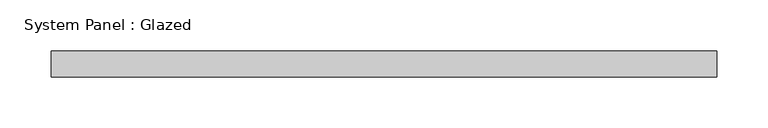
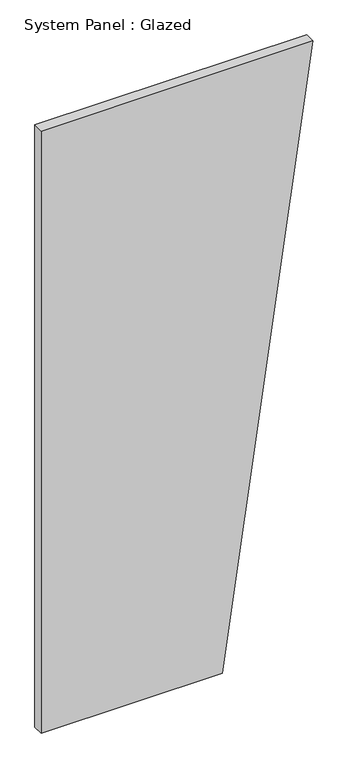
"""IFC4 building model written with IfcOpenShell, lengths in millimetres: plate geometry, System Panel : Glazed."""

from ifc_helpers import new_model, si_unit, frame, origin, place, context, project, spatial, polyline, outline, extrude, source, transform, mapped, element, save


def system_panel_glazed_fd89f232(model_context):
    return source(origin(), model_context, "Body", "SweptSolid", [
        extrude(outline(polyline([(0.0, -325.5680326), (0.0, 108.5226775), (1524.0, 325.5680326), (1524.0, -325.5680326), (0.0, -325.5680326)])), frame((0.0, 19.05, 0.0), z_axis=(0.0, 1.0, 0.0), x_axis=(0.0, 0.0, 1.0)), (0.0, 0.0, 1.0), 25.4),
    ])


if __name__ == "__main__":
    model = new_model("IFC4")
    model_context = context("Model", 3, world=origin())
    ifc_project = project(units=[si_unit("LENGTHUNIT", "METRE", prefix="MILLI")], contexts=[model_context])
    site = spatial("IfcSite", under=ifc_project)
    building = spatial("IfcBuilding", under=site)
    placement = place(None, origin())
    system_panel_glazed_shape = system_panel_glazed_fd89f232(model_context)
    element("IfcPlate", 1, ObjectType="System Panel : Glazed", at=placement, inside=building, context=model_context, shape_type="MappedRepresentation", body=[
        mapped(system_panel_glazed_shape, transform((0.0, 0.0, 0.0), x_axis=(1.0, 0.0, 0.0), y_axis=(0.0, 1.0, 0.0), z_axis=(0.0, 0.0, 1.0))),
    ])
    save(model, "model.ifc")
